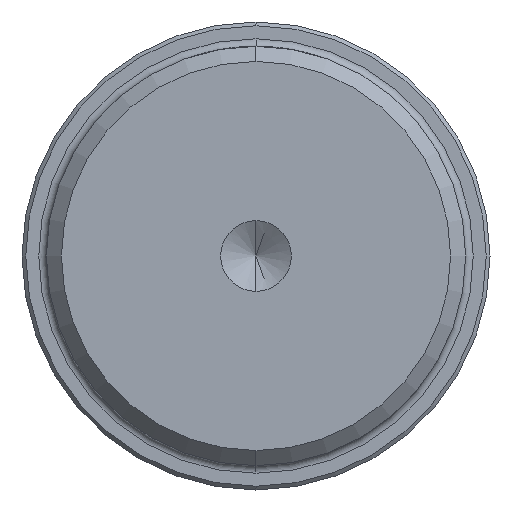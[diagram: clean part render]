
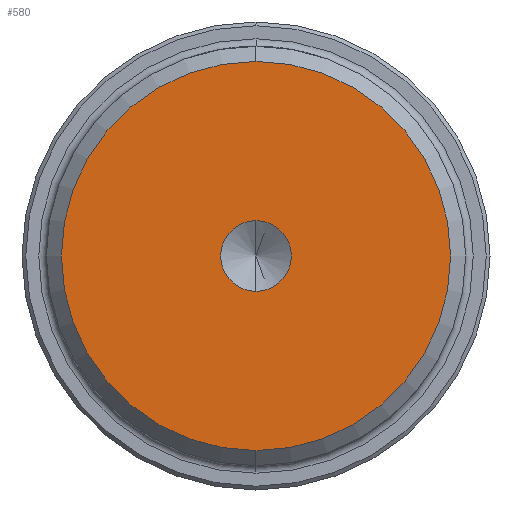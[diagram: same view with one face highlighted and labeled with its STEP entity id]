
A CAD part, left-side view. The second image highlights one B-rep face of the part: STEP entity #580.
In plain terms, the highlighted planar face has unit normal (-1, 0, 0).
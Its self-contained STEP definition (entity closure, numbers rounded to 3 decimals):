
#2 = ORIENTED_EDGE ( 'NONE', *, *, #42, .T. ) ;
#42 = EDGE_CURVE ( 'NONE', #524, #528, #198, .T. ) ;
#43 = EDGE_CURVE ( 'NONE', #516, #548, #201, .T. ) ;
#198 = CIRCLE ( 'NONE', #367, 25.78 ) ;
#201 = CIRCLE ( 'NONE', #368, 4.675 ) ;
#345 = EDGE_CURVE ( 'NONE', #528, #524, #680, .T. ) ;
#350 = EDGE_CURVE ( 'NONE', #548, #516, #686, .T. ) ;
#367 = AXIS2_PLACEMENT_3D ( 'NONE', #798, #1324, #1326 ) ;
#368 = AXIS2_PLACEMENT_3D ( 'NONE', #1328, #1329, #1419 ) ;
#392 = AXIS2_PLACEMENT_3D ( 'NONE', #995, #996, #997 ) ;
#394 = AXIS2_PLACEMENT_3D ( 'NONE', #1027, #1028, #1029 ) ;
#429 = EDGE_LOOP ( 'NONE', ( #2, #1337 ) ) ;
#432 = EDGE_LOOP ( 'NONE', ( #1339, #1341 ) ) ;
#516 = VERTEX_POINT ( 'NONE', #1098 ) ;
#524 = VERTEX_POINT ( 'NONE', #1104 ) ;
#528 = VERTEX_POINT ( 'NONE', #1108 ) ;
#548 = VERTEX_POINT ( 'NONE', #1128 ) ;
#580 = ADVANCED_FACE ( 'NONE', ( #746, #752 ), #1221, .F. ) ;
#624 = AXIS2_PLACEMENT_3D ( 'NONE', #1220, #1226, #1227 ) ;
#680 = CIRCLE ( 'NONE', #392, 25.78 ) ;
#686 = CIRCLE ( 'NONE', #394, 4.675 ) ;
#746 = FACE_BOUND ( 'NONE', #432, .T. ) ;
#752 = FACE_OUTER_BOUND ( 'NONE', #429, .T. ) ;
#798 = CARTESIAN_POINT ( 'NONE',  ( -108.45, 0., 0. ) ) ;
#995 = CARTESIAN_POINT ( 'NONE',  ( -108.45, 0., 0. ) ) ;
#996 = DIRECTION ( 'NONE',  ( -1., 0., 0. ) ) ;
#997 = DIRECTION ( 'NONE',  ( 0., 0., 1. ) ) ;
#1027 = CARTESIAN_POINT ( 'NONE',  ( -108.45, 0., 0. ) ) ;
#1028 = DIRECTION ( 'NONE',  ( -1., 0., 0. ) ) ;
#1029 = DIRECTION ( 'NONE',  ( 0., 0., 1. ) ) ;
#1098 = CARTESIAN_POINT ( 'NONE',  ( -108.45, 0., 4.675 ) ) ;
#1104 = CARTESIAN_POINT ( 'NONE',  ( -108.45, 0., -25.78 ) ) ;
#1108 = CARTESIAN_POINT ( 'NONE',  ( -108.45, 0., 25.78 ) ) ;
#1128 = CARTESIAN_POINT ( 'NONE',  ( -108.45, 0., -4.675 ) ) ;
#1220 = CARTESIAN_POINT ( 'NONE',  ( -108.45, 0., 0. ) ) ;
#1221 = PLANE ( 'NONE',  #624 ) ;
#1226 = DIRECTION ( 'NONE',  ( 1., 0., 0. ) ) ;
#1227 = DIRECTION ( 'NONE',  ( 0., 0., -1. ) ) ;
#1324 = DIRECTION ( 'NONE',  ( -1., 0., 0. ) ) ;
#1326 = DIRECTION ( 'NONE',  ( 0., 0., 1. ) ) ;
#1328 = CARTESIAN_POINT ( 'NONE',  ( -108.45, 0., 0. ) ) ;
#1329 = DIRECTION ( 'NONE',  ( -1., 0., 0. ) ) ;
#1337 = ORIENTED_EDGE ( 'NONE', *, *, #345, .T. ) ;
#1339 = ORIENTED_EDGE ( 'NONE', *, *, #43, .F. ) ;
#1341 = ORIENTED_EDGE ( 'NONE', *, *, #350, .F. ) ;
#1419 = DIRECTION ( 'NONE',  ( 0., 0., 1. ) ) ;
